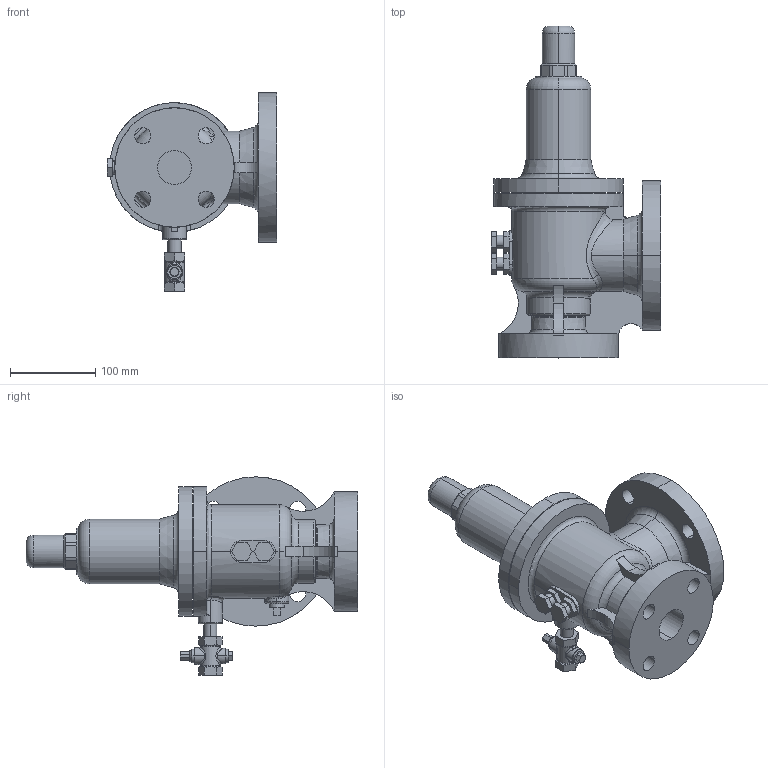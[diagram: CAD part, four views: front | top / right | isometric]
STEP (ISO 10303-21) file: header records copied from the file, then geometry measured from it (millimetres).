
FILE_DESCRIPTION (( 'STEP AP203' ), '1' );
FILE_NAME ('AF-4M 40A.STEP', '2024-07-10T04:28:35', ( '' ), ( '' ), 'SwSTEP 2.0', 'SolidWorks 2024', '' );
FILE_SCHEMA (( 'CONFIG_CONTROL_DESIGN' ));
Length unit declared in the file: millimetre
Products named in the file (6): 止めボルト 40A; AF-4 本体部P 40A; 背圧絞り弁 40A; AF-4M 40A; プラグ 10A; キャップ 40A
Assembly tree (6 placements, depth 2):
  AF-4M 40A
    AF-4 本体部P 40A
    背圧絞り弁 40A
    止めボルト 40A  x2
    キャップ 40A
    プラグ 10A
Bounding box: 199 x 389 x 232.5 mm (x, y, z)
Volume: 3489597 mm3; surface area: 296236.3 mm2
Topology: 6 solids, 6 shells, 369 faces, 899 edges, 558 vertices
Faces by surface type: plane 153, cylinder 89, torus 54, cone 46, bspline 25, sphere 2
Entity records: 14690 total; most frequent: CARTESIAN_POINT 5953, ORIENTED_EDGE 1710, DIRECTION 1686, EDGE_CURVE 855, AXIS2_PLACEMENT_3D 680, VERTEX_POINT 530, EDGE_LOOP 383, ADVANCED_FACE 351
